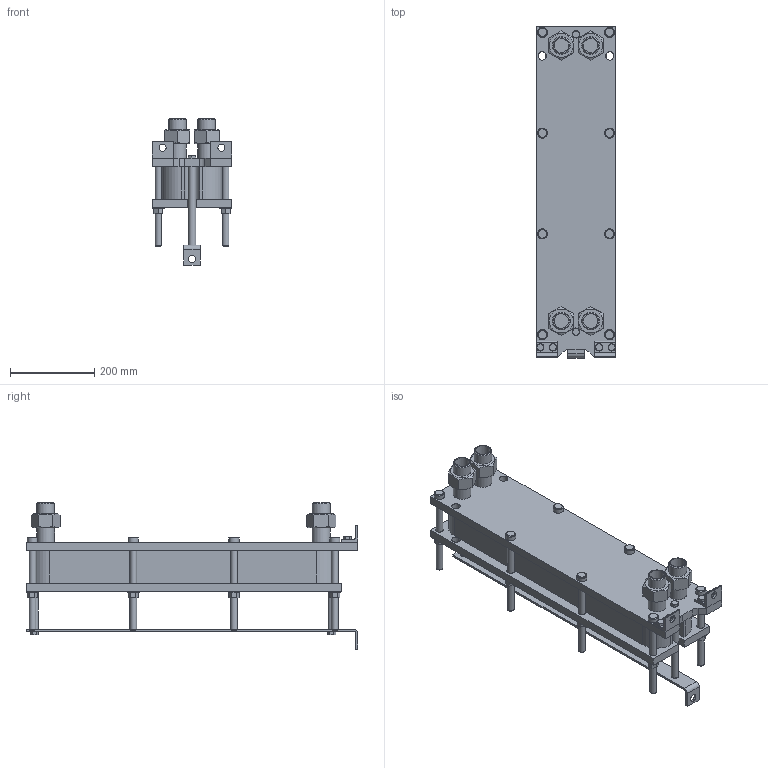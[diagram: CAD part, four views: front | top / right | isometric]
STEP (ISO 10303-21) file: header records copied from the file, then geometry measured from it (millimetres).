
FILE_DESCRIPTION(/* description */ (''),/* implementation_level */ '2;1');
FILE_NAME(/* name */ 'C:\Users\zhuro\Desktop\ENCO\TO\ЭН-008\ЭН-0,5-008-25-1.stp',/* time_stamp */ '2022-06-06T10:46:52+03:00',/* author */ ('zhuro'),/* organization */ (''),/* preprocessor_version */ 'ST-DEVELOPER v18.1',/* originating_system */ 'Autodesk Inventor 2022',/* authorisation */ '');
FILE_SCHEMA (('AUTOMOTIVE_DESIGN { 1 0 10303 214 3 1 1 }'));
Length unit declared in the file: millimetre
Products named in the file (1): ЭН-0,5-008-25-1
Bounding box: 190 x 790 x 349 mm (x, y, z)
Volume: 14554916.7 mm3; surface area: 1387112.5 mm2
Topology: 40 solids, 40 shells, 428 faces, 924 edges, 606 vertices
Faces by surface type: plane 273, cylinder 109, cone 40, torus 6
Full cylindrical faces by diameter (mm): 12 x6, 14 x2, 16 x20, 17 x8, 18 x19, 20 x5, 24 x8, 28 x8, 34.3 x8, 42.3 x8
Entity records: 15843 total; most frequent: CARTESIAN_POINT 5991, DIRECTION 1984, ORIENTED_EDGE 1848, EDGE_CURVE 924, AXIS2_PLACEMENT_3D 715, VERTEX_POINT 606, LINE 554, VECTOR 554
